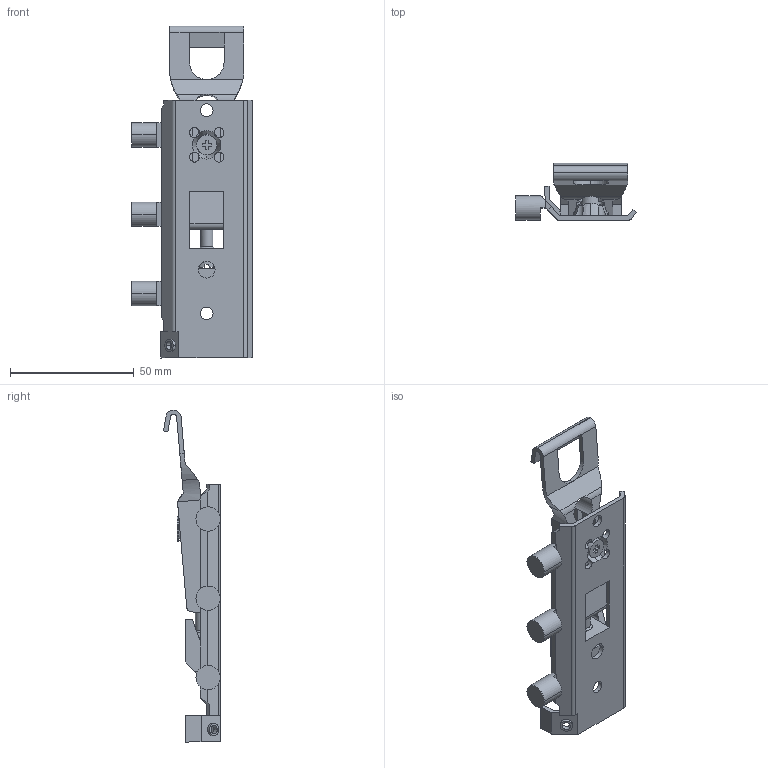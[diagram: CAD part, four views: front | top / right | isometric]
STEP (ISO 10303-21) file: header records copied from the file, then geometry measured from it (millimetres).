
FILE_DESCRIPTION (( 'STEP AP203' ), '1' );
FILE_NAME ('SH-6301_links_D8630021017~0.step', '2012-05-04T07:16:35', ( 'admin' ), ( 'Hewlett-Packard Company' ), 'SwSTEP 2.0', 'SolidWorks 2011', '' );
FILE_SCHEMA (( 'CONFIG_CONTROL_DESIGN' ));
Length unit declared in the file: millimetre
Products named in the file (1): SH-6301_links_D8630021017~0
Bounding box: 48.7 x 23 x 133.97 mm (x, y, z)
Volume: 22987 mm3; surface area: 18388.9 mm2
Topology: 1 solids, 1 shells, 259 faces, 773 edges, 504 vertices
Faces by surface type: plane 170, cylinder 76, cone 9, torus 4
Entity records: 9012 total; most frequent: CARTESIAN_POINT 2039, ORIENTED_EDGE 1536, DIRECTION 1383, EDGE_CURVE 768, VERTEX_POINT 499, LINE 461, VECTOR 461, AXIS2_PLACEMENT_3D 461
